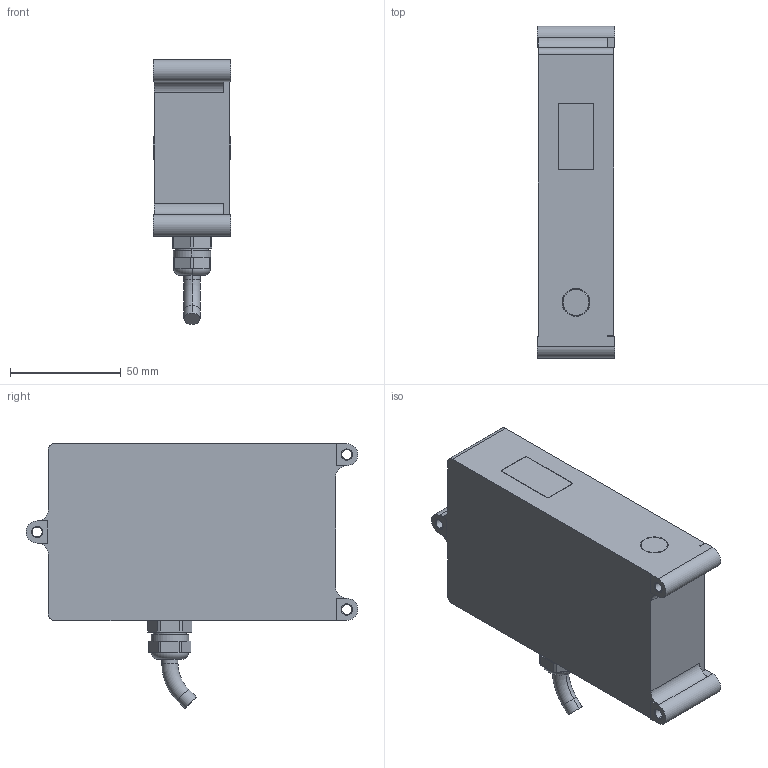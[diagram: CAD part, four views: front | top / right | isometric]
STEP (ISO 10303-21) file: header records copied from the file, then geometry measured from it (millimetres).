
FILE_DESCRIPTION (( 'STEP AP203' ), '1' );
FILE_NAME ('ILD2300-200 (002)-Dummy.STEP', '2013-01-13T19:21:31', ( 'RSM' ), ( '' ), 'SwSTEP 2.0', 'SolidWorks 2012', '' );
FILE_SCHEMA (( 'CONFIG_CONTROL_DESIGN' ));
Length unit declared in the file: millimetre
Products named in the file (1): ILD2300-200 (002)-Dummy
Bounding box: 35 x 150 x 119.76 mm (x, y, z)
Volume: 127485.1 mm3; surface area: 75111.2 mm2
Topology: 1 solids, 17 shells, 966 faces, 2437 edges, 1544 vertices
Faces by surface type: plane 414, cylinder 350, cone 150, torus 48, sphere 4
Entity records: 28992 total; most frequent: DIRECTION 5261, CARTESIAN_POINT 5025, ORIENTED_EDGE 4826, EDGE_CURVE 2413, AXIS2_PLACEMENT_3D 1890, VERTEX_POINT 1544, LINE 1481, VECTOR 1481
